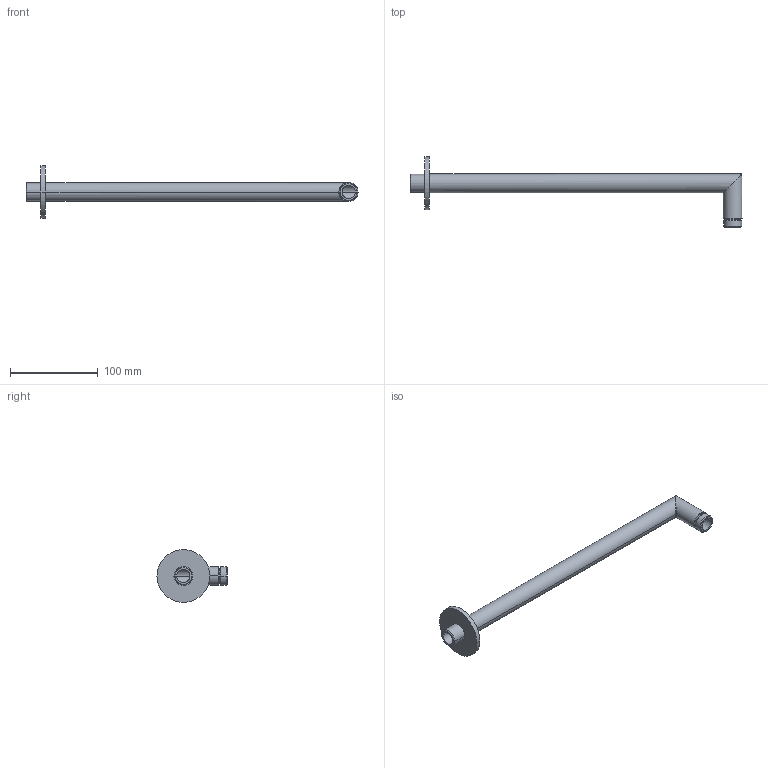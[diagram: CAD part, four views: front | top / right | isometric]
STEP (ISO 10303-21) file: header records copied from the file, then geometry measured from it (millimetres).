
FILE_DESCRIPTION((''),'2;1');
FILE_NAME('89930_SW0001','2023-09-21T15:31:24',('carloff'),(''),'CREO PARAMETRIC BY PTC INC, 2022014','CREO PARAMETRIC BY PTC INC, 2022014','');
FILE_SCHEMA(('CONFIG_CONTROL_DESIGN'));
Length unit declared in the file: millimetre
Products named in the file (1): 89930_SW0001
Bounding box: 377.65 x 79.65 x 60 mm (x, y, z)
Volume: 86247.5 mm3; surface area: 54028 mm2
Topology: 2 solids, 2 shells, 34 faces, 70 edges, 42 vertices
Faces by surface type: cylinder 18, cone 6, plane 6, bspline 4
Entity records: 1432 total; most frequent: CARTESIAN_POINT 678, DIRECTION 152, ORIENTED_EDGE 140, EDGE_CURVE 70, AXIS2_PLACEMENT_3D 64, VERTEX_POINT 42, EDGE_LOOP 40, FACE_OUTER_BOUND 34
